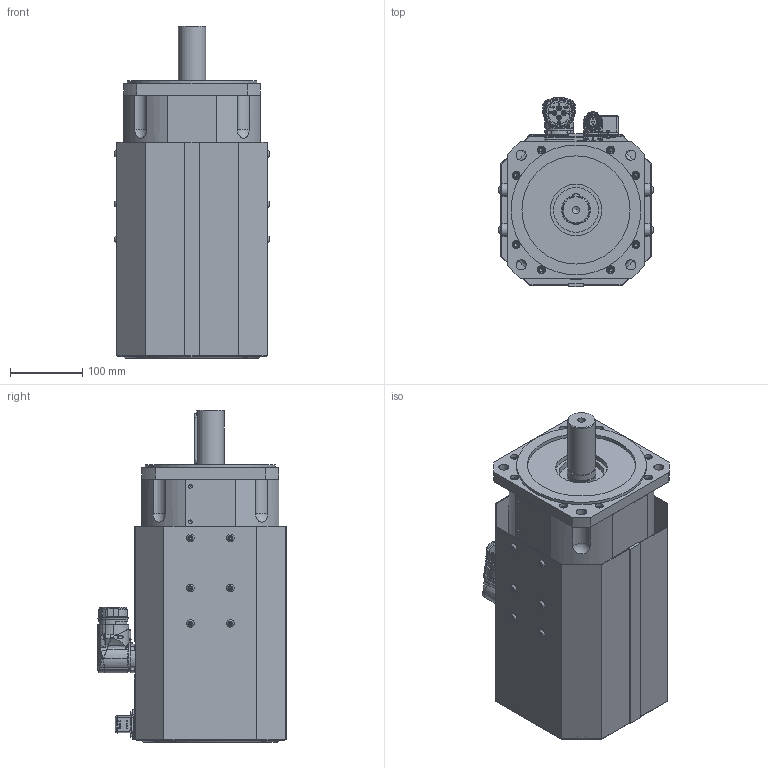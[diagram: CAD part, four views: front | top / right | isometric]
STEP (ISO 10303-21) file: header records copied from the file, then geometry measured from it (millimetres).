
FILE_DESCRIPTION(/* description */ (''),/* implementation_level */ '2;1');
FILE_NAME(/* name */ 'C:\Users\Public\Documents\Autodesk\Inventor LT 2014\Workspace\Motori Sito WEB\TG_6\DSF5_6x\STEP_DSF5_6x\DSF5_63_x099.stp',/* time_stamp */ '2021-04-06T09:34:39+02:00',/* author */ ('marcor'),/* organization */ (''),/* preprocessor_version */ 'ST-DEVELOPER v15.2',/* originating_system */ 'Autodesk Inventor LT ',/* authorisation */ '');
FILE_SCHEMA (('AUTOMOTIVE_DESIGN { 1 0 10303 214 3 1 1 }'));
Products named in the file (1): DSF5_63_x099
Bounding box: 215 x 262.25 x 460.5 mm (x, y, z)
Volume: 9895818 mm3; surface area: 1084965.1 mm2
Topology: 35 solids, 44 shells, 2497 faces, 6241 edges, 4014 vertices
Faces by surface type: plane 1082, cylinder 532, cone 505, bspline 177, torus 155, sphere 46
Full cylindrical faces by diameter (mm): 1.2 x12, 2 x2, 2.2 x4, 2.224 x4, 2.4 x6, 2.5 x4, 2.88 x4, 3 x4, 3.26 x4, 3.5 x10, 3.6 x5, 4 x5, 4.5 x1, 4.8 x4, 4.917 x36, 5 x7, 5.1 x4, 5.4 x1, 5.5 x3, 5.9 x1, 6 x32, 6.5 x32, 7 x4, 8 x3, 8.5 x1, 10 x20, 10.106 x1, 11 x20, 12 x1, 14 x4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
Entity records: 80115 total; most frequent: CARTESIAN_POINT 23718, ORIENTED_EDGE 10918, DIRECTION 10854, EDGE_CURVE 5411, AXIS2_PLACEMENT_3D 4316, VERTEX_POINT 3778, EDGE_LOOP 3387, ADVANCED_FACE 2497
